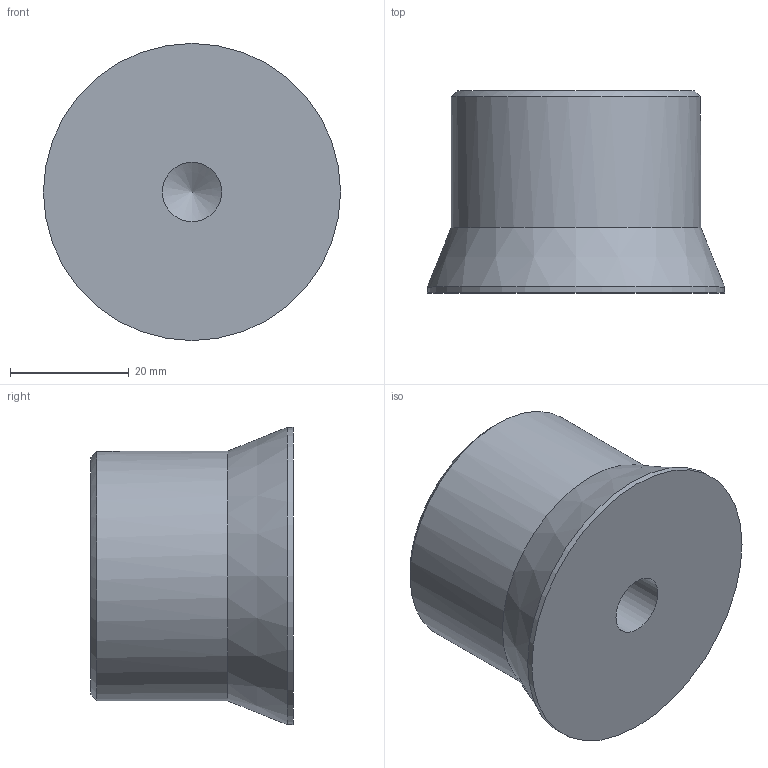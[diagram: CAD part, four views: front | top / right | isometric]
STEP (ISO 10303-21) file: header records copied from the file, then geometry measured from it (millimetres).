
FILE_DESCRIPTION( ( 'STEP AP203' ), '1' );
FILE_NAME( 'C:/Temp/Ganter_Step_05_03_2020/data/1_4/gn_726_2/gn_726_2_a/gn_726_2_a_2/Control knob GN 726.2-42-Z10-A-2.stp', '2020-03-05T10:50:00', ( 'License CC BY-ND 4.0' ), ( 'CADENAS' ), ' ', 'PARTsolutions', ' ' );
FILE_SCHEMA( ( 'CONFIG_CONTROL_DESIGN' ) );
Length unit declared in the file: millimetre
Products named in the file (1): _Control knob GN 726.2-42-Z10-A-2
Bounding box: 50 x 34 x 50 mm (x, y, z)
Volume: 48204 mm3; surface area: 8772.3 mm2
Topology: 1 solids, 1 shells, 113 faces, 326 edges, 216 vertices
Faces by surface type: cylinder 81, plane 28, cone 4
Full cylindrical faces by diameter (mm): 10 x1, 42 x1, 50 x1
Entity records: 4047 total; most frequent: CARTESIAN_POINT 1156, ORIENTED_EDGE 634, DIRECTION 551, EDGE_CURVE 317, VERTEX_POINT 215, AXIS2_PLACEMENT_3D 212, LINE 127, VECTOR 127
